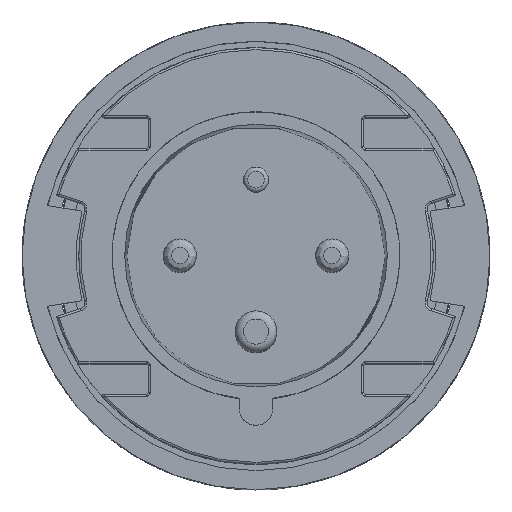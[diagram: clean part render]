
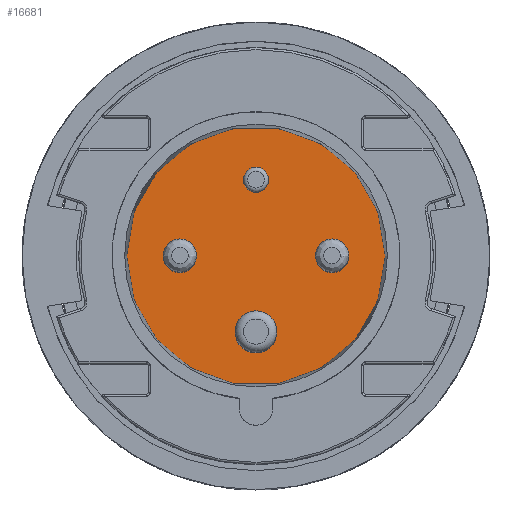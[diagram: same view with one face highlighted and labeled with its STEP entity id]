
A CAD part, top view. The second image highlights one B-rep face of the part: STEP entity #16681.
In plain terms, the highlighted planar face has unit normal (0, 0, 1).
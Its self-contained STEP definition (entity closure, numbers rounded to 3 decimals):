
#16681 = ADVANCED_FACE('',(#16682),#16720,.T.);
#16682 = FACE_BOUND('',#16683,.T.);
#16683 = EDGE_LOOP('',(#16684,#16695,#16704,#16713));
#16684 = ORIENTED_EDGE('',*,*,#16685,.F.);
#16685 = EDGE_CURVE('',#16686,#16688,#16690,.T.);
#16686 = VERTEX_POINT('',#16687);
#16687 = CARTESIAN_POINT('',(0.,31.,0.));
#16688 = VERTEX_POINT('',#16689);
#16689 = CARTESIAN_POINT('',(31.,0.,0.));
#16690 = CIRCLE('',#16691,31.);
#16691 = AXIS2_PLACEMENT_3D('',#16692,#16693,#16694);
#16692 = CARTESIAN_POINT('',(0.,0.,0.));
#16693 = DIRECTION('',(0.,0.,-1.));
#16694 = DIRECTION('',(0.,1.,0.));
#16695 = ORIENTED_EDGE('',*,*,#16696,.F.);
#16696 = EDGE_CURVE('',#16697,#16686,#16699,.T.);
#16697 = VERTEX_POINT('',#16698);
#16698 = CARTESIAN_POINT('',(-31.,0.,0.));
#16699 = CIRCLE('',#16700,31.);
#16700 = AXIS2_PLACEMENT_3D('',#16701,#16702,#16703);
#16701 = CARTESIAN_POINT('',(0.,0.,0.));
#16702 = DIRECTION('',(0.,0.,-1.));
#16703 = DIRECTION('',(-1.,0.,0.));
#16704 = ORIENTED_EDGE('',*,*,#16705,.F.);
#16705 = EDGE_CURVE('',#16706,#16697,#16708,.T.);
#16706 = VERTEX_POINT('',#16707);
#16707 = CARTESIAN_POINT('',(0.,-31.,0.));
#16708 = CIRCLE('',#16709,31.);
#16709 = AXIS2_PLACEMENT_3D('',#16710,#16711,#16712);
#16710 = CARTESIAN_POINT('',(0.,0.,0.));
#16711 = DIRECTION('',(0.,0.,-1.));
#16712 = DIRECTION('',(0.,-1.,0.));
#16713 = ORIENTED_EDGE('',*,*,#16714,.F.);
#16714 = EDGE_CURVE('',#16688,#16706,#16715,.T.);
#16715 = CIRCLE('',#16716,31.);
#16716 = AXIS2_PLACEMENT_3D('',#16717,#16718,#16719);
#16717 = CARTESIAN_POINT('',(0.,0.,0.));
#16718 = DIRECTION('',(0.,0.,-1.));
#16719 = DIRECTION('',(1.,0.,0.));
#16720 = PLANE('',#16721);
#16721 = AXIS2_PLACEMENT_3D('',#16722,#16723,#16724);
#16722 = CARTESIAN_POINT('',(0.,0.,0.));
#16723 = DIRECTION('',(0.,0.,1.));
#16724 = DIRECTION('',(-1.,0.,0.));
